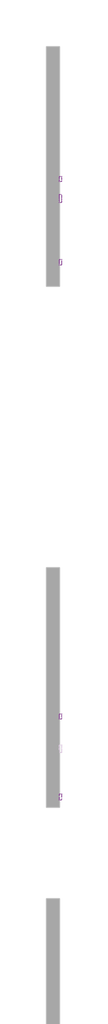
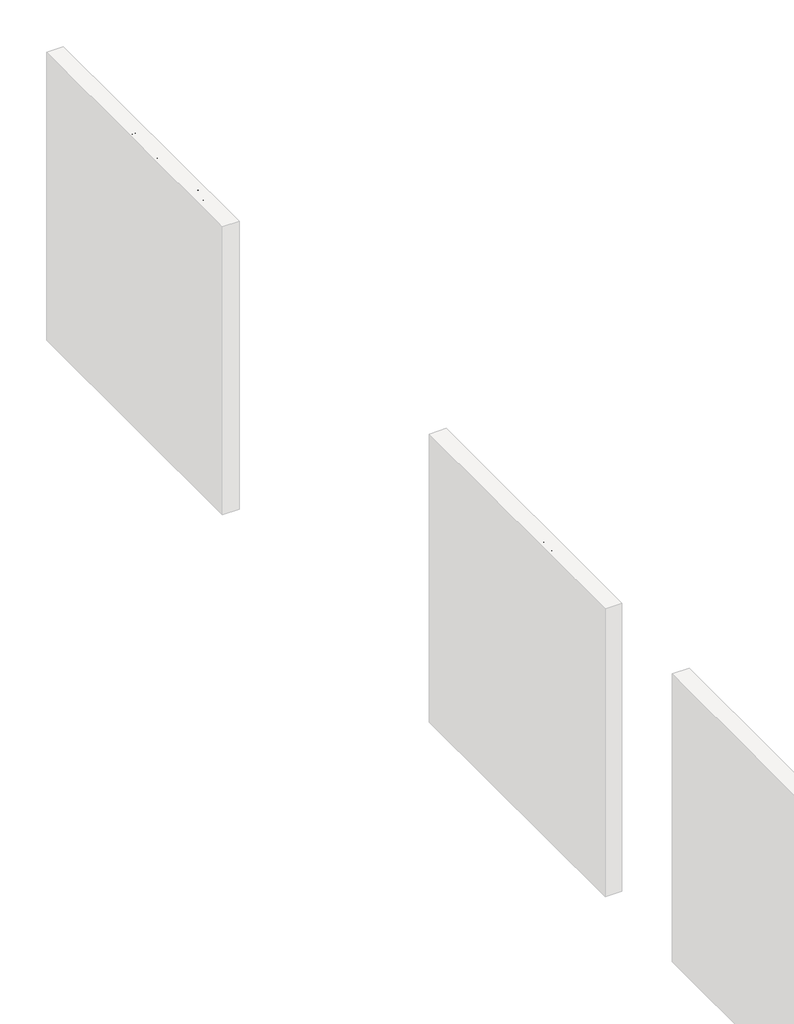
# One storey, part 11 of 17: 5 proxies.
"""IFC4 building model written with IfcOpenShell, lengths in millimetres."""

from ifc_helpers import new_model, si_unit, frame, origin, place, context, project, spatial, polyline, outline, extrude, element, save

model = new_model("IFC4")

# Units and contexts
model_context = context("Model", 3, world=origin())
ifc_project = project(units=[si_unit("LENGTHUNIT", "METRE", prefix="MILLI")], contexts=[model_context])

# Site, building, storey
site = spatial("IfcSite", under=ifc_project)
building = spatial("IfcBuilding", under=site)
storey = spatial("IfcBuildingStorey", under=building, Name="PORTOBELLO - SHOWROOM", Elevation=0.0)

# Proxies
placement = place(None, origin())
element("IfcBuildingElementProxy", 1, Name="10mm Arial", ObjectType="10mm Arial", at=placement, inside=storey, context=model_context, shape_type="SweptSolid", body=[
    extrude(outline(polyline([(5690.0729325, 2518.4745677), (5690.0729325, 2618.9308778), (5728.4062364, 2618.9308778), (5747.1804809, 2615.9755591), (5758.2659917, 2606.8888738), (5762.2759054, 2594.0375295), (5758.9036538, 2582.3020938), (5748.7133225, 2573.4116123), (5761.0864203, 2564.0428841), (5765.4151651, 2548.4201621), (5762.4598464, 2534.9188928), (5755.1389947, 2525.30491), (5744.2128994, 2520.203613), (5728.1119308, 2518.4745677), (5690.0729325, 2518.4745677)]), holes=[polyline([(5702.6299713, 2578.1205018), (5725.5612823, 2578.1205018), (5738.9521869, 2579.1996223), (5747.0088026, 2583.8471982), (5749.7188666, 2592.0264412), (5747.1927436, 2600.217947), (5739.957731, 2605.0617266), (5723.8199742, 2606.373839), (5702.6299713, 2606.373839), (5702.6299713, 2578.1205018)]), polyline([(5702.6299713, 2531.0316064), (5728.3817109, 2531.0316064), (5737.7013881, 2531.5221158), (5745.5863256, 2534.2567053), (5750.8102499, 2539.8362488), (5752.8581263, 2548.2975347), (5750.4546306, 2558.0586703), (5742.6677951, 2563.8834686), (5727.1554376, 2565.563463), (5702.6299713, 2565.563463), (5702.6299713, 2531.0316064)])]), frame((-7622.2794626, 0.0, 0.0), z_axis=(1.0, 0.0, 0.0), x_axis=(0.0, 1.0, 0.0)), (0.0, 0.0, 1.0), 20.0),
    extrude(outline(polyline([(5781.1114636, 2518.4745677), (5781.1114636, 2592.2471704), (5792.0988725, 2592.2471704), (5792.0988725, 2581.3333379), (5799.8979708, 2591.3887791), (5807.74612, 2593.8168003), (5820.3522097, 2589.9417766), (5816.158355, 2578.6845875), (5807.3291871, 2581.2597615), (5800.2290646, 2578.7826894), (5795.704116, 2571.9155588), (5793.6685023, 2557.24933), (5793.6685023, 2518.4745677), (5781.1114636, 2518.4745677)])), frame((-7622.2794626, 0.0, 0.0), z_axis=(1.0, 0.0, 0.0), x_axis=(0.0, 1.0, 0.0)), (0.0, 0.0, 1.0), 20.0),
    extrude(outline(polyline([(5875.2892543, 2527.8923467), (5863.1123603, 2519.3820099), (5849.660142, 2516.9049378), (5839.1663081, 2518.3948599), (5831.4254578, 2522.8646261), (5826.6521889, 2529.6520489), (5825.0610992, 2538.0949407), (5827.4645949, 2548.0277546), (5833.7799025, 2555.2382417), (5842.5722822, 2559.3585201), (5853.4370638, 2561.246981), (5875.2156779, 2565.563463), (5875.2892543, 2568.3593662), (5871.8311636, 2577.6299925), (5857.9497496, 2581.2597615), (5845.245558, 2578.8440031), (5839.1877679, 2570.2723526), (5826.6307291, 2571.8419824), (5832.0631199, 2584.1047156), (5843.0014779, 2591.2906772), (5859.5684304, 2593.8168003), (5874.7864823, 2591.5849828), (5883.3826582, 2585.9809138), (5887.2331564, 2577.4583142), (5887.8462931, 2566.4709053), (5887.8462931, 2550.8481832), (5888.4839552, 2529.0327809), (5890.9855528, 2518.4745677), (5878.428514, 2518.4745677), (5875.2892543, 2527.8923467)]), holes=[polyline([(5875.2892543, 2553.0064243), (5855.0312191, 2549.1559261), (5844.2277512, 2547.1203124), (5839.3349207, 2543.8093744), (5837.618138, 2538.9778575), (5841.3582716, 2532.1843033), (5852.3334178, 2529.4619766), (5865.0376094, 2532.4663462), (5873.2291151, 2539.738147), (5875.2156779, 2549.4502317), (5875.2892543, 2553.0064243)])]), frame((-7622.2794626, 0.0, 0.0), z_axis=(1.0, 0.0, 0.0), x_axis=(0.0, 1.0, 0.0)), (0.0, 0.0, 1.0), 20.0),
    extrude(outline(polyline([(5905.1122214, 2518.4745677), (5905.1122214, 2592.2471704), (5917.6692602, 2592.2471704), (5917.6692602, 2581.9464746), (5927.2709802, 2590.8492188), (5940.379842, 2593.8168003), (5952.237905, 2591.4255673), (5960.3313089, 2585.1470479), (5964.095968, 2575.9132098), (5964.7581555, 2563.773104), (5964.7581555, 2518.4745677), (5952.2011168, 2518.4745677), (5952.2011168, 2562.0808468), (5950.7541143, 2573.1908831), (5945.6405545, 2579.0647323), (5937.0198531, 2581.2597615), (5923.3959566, 2576.3301428), (5919.1009343, 2569.1871007), (5917.6692602, 2557.6172119), (5917.6692602, 2518.4745677), (5905.1122214, 2518.4745677)])), frame((-7622.2794626, 0.0, 0.0), z_axis=(1.0, 0.0, 0.0), x_axis=(0.0, 1.0, 0.0)), (0.0, 0.0, 1.0), 20.0),
    extrude(outline(polyline([(6029.1129792, 2545.158275), (6041.670018, 2543.5886452), (6038.1690077, 2532.420361), (6031.5900513, 2523.9805349), (6022.552417, 2518.6738371), (6011.6753727, 2516.9049378), (5998.3181906, 2519.3728129), (5987.8734076, 2526.776438), (5981.13197, 2538.7908508), (5978.8848242, 2555.0910889), (5982.7230596, 2575.949998), (5994.4217071, 2589.3531654), (6011.5036944, 2593.8168003), (6022.1140243, 2592.2839586), (6030.59677, 2587.6854337), (6036.6821513, 2580.2664801), (6040.1003882, 2570.2723526), (6027.5433494, 2568.7027227), (6021.7185511, 2578.1082391), (6011.6017963, 2581.2597615), (6003.4869326, 2579.7085258), (5997.045932, 2575.0548185), (5992.8428802, 2567.0472538), (5991.4418629, 2555.4344454), (5992.8122234, 2543.6652873), (5996.9233047, 2535.6301314), (6003.2478093, 2531.0040153), (6011.2584397, 2529.4619766), (6023.0919773, 2533.3124748), (6029.1129792, 2545.158275)])), frame((-7622.2794626, 0.0, 0.0), z_axis=(1.0, 0.0, 0.0), x_axis=(0.0, 1.0, 0.0)), (0.0, 0.0, 1.0), 20.0),
    extrude(outline(polyline([(6049.5181672, 2555.360869), (6052.2343626, 2573.1479635), (6060.3829488, 2585.64982), (6070.4506528, 2591.7750552), (6082.5049195, 2593.8168003), (6095.6965547, 2591.3305311), (6106.2333082, 2583.8717237), (6113.1402926, 2572.0289891), (6115.4426208, 2556.3909386), (6111.3713934, 2534.0482388), (6099.5133304, 2521.4053609), (6082.5049195, 2516.9049378), (6069.1538687, 2519.3820099), (6058.629378, 2526.8132262), (6051.7959699, 2538.9042811), (6049.5181672, 2555.360869)]), holes=[polyline([(6062.075206, 2555.3853945), (6063.5283399, 2544.0209065), (6067.8877415, 2535.924437), (6074.4483038, 2531.0775917), (6082.5049195, 2529.4619766), (6090.524747, 2531.0867887), (6097.0730465, 2535.9612252), (6101.4324481, 2544.1649937), (6102.885582, 2555.777802), (6101.4232511, 2566.8111961), (6097.0362583, 2574.7973011), (6090.4787617, 2579.6441464), (6082.5049195, 2581.2597615), (6074.4483038, 2579.6502778), (6067.8877415, 2574.8218266), (6063.5283399, 2566.7437511), (6062.075206, 2555.3853945)])]), frame((-7622.2794626, 0.0, 0.0), z_axis=(1.0, 0.0, 0.0), x_axis=(0.0, 1.0, 0.0)), (0.0, 0.0, 1.0), 20.0),
    extrude(outline(polyline([(6165.6707758, 2553.0064243), (6178.2278146, 2553.0064243), (6182.2745166, 2540.4371228), (6192.1582795, 2532.4908717), (6207.2169158, 2529.4619766), (6220.3380403, 2531.7551077), (6228.811589, 2538.0581525), (6231.5952294, 2546.4826502), (6229.5105647, 2554.3185367), (6220.9757025, 2560.0207077), (6202.6919673, 2564.8154363), (6183.0102806, 2571.0081166), (6172.32944, 2580.3523193), (6168.8100355, 2592.8357816), (6173.1633058, 2607.0482894), (6185.8797601, 2617.0792051), (6204.4945891, 2620.5005077), (6224.3602168, 2616.9197896), (6237.6039686, 2606.3983645), (6242.5826383, 2590.6775406), (6230.0255995, 2590.6775406), (6227.7202057, 2598.1700706), (6222.9132143, 2603.5779359), (6204.9850984, 2607.9434689), (6187.0079316, 2603.6269868), (6181.3670743, 2593.2036636), (6185.3647253, 2584.4971231), (6205.8680152, 2577.4828397), (6228.0880877, 2571.1797948), (6240.2404563, 2561.0017263), (6244.1522682, 2546.8014813), (6239.6518451, 2531.7796332), (6226.7023988, 2520.8167497), (6207.7074252, 2516.9049378), (6185.2788862, 2521.123318), (6171.0909039, 2533.8275096), (6165.6707758, 2553.0064243)])), frame((-7622.2794626, 0.0, 0.0), z_axis=(1.0, 0.0, 0.0), x_axis=(0.0, 1.0, 0.0)), (0.0, 0.0, 1.0), 20.0),
    extrude(outline(polyline([(6308.5070918, 2518.4745677), (6308.5070918, 2531.1542338), (6298.6723798, 2520.4672618), (6285.8455609, 2516.9049378), (6274.0365489, 2519.4065354), (6265.8940941, 2525.6850548), (6262.1539605, 2534.9311556), (6261.4181965, 2546.6052776), (6261.4181965, 2592.2471704), (6273.9752352, 2592.2471704), (6273.9752352, 2552.515915), (6274.7355247, 2539.7136215), (6279.7019316, 2532.1965661), (6289.058397, 2529.4619766), (6299.5430339, 2532.2578797), (6306.4714781, 2539.873037), (6308.5070918, 2553.8648156), (6308.5070918, 2592.2471704), (6321.0641306, 2592.2471704), (6321.0641306, 2518.4745677), (6308.5070918, 2518.4745677)])), frame((-7622.2794626, 0.0, 0.0), z_axis=(1.0, 0.0, 0.0), x_axis=(0.0, 1.0, 0.0)), (0.0, 0.0, 1.0), 20.0),
    extrude(outline(polyline([(6338.3300589, 2490.2212304), (6338.3300589, 2592.2471704), (6350.8870977, 2592.2471704), (6350.8870977, 2579.9353863), (6359.5691128, 2590.3464468), (6371.2922857, 2593.8168003), (6387.2093133, 2588.9607579), (6397.6081111, 2575.2755477), (6401.1152528, 2555.9249548), (6397.1543899, 2535.5810804), (6385.6519462, 2521.724192), (6369.7717068, 2516.9049378), (6358.8456115, 2520.1300366), (6350.8870977, 2528.2847542), (6350.8870977, 2490.2212304), (6338.3300589, 2490.2212304)]), holes=[polyline([(6350.8870977, 2554.7722579), (6352.2451954, 2543.5150688), (6356.3194885, 2535.6423941), (6362.3312934, 2531.007081), (6369.5019266, 2529.4619766), (6376.7890558, 2531.0622633), (6382.9541449, 2535.8631233), (6387.1571967, 2544.0239722), (6388.558214, 2555.7042256), (6387.1909192, 2566.900101), (6383.089035, 2574.8831403), (6377.0864271, 2579.6656062), (6370.0169614, 2581.2597615), (6362.9199046, 2579.5644386), (6356.6873705, 2574.4784701), (6352.3371659, 2566.1612713), (6350.8870977, 2554.7722579)])]), frame((-7622.2794626, 0.0, 0.0), z_axis=(1.0, 0.0, 0.0), x_axis=(0.0, 1.0, 0.0)), (0.0, 0.0, 1.0), 20.0),
    extrude(outline(polyline([(6415.2419214, 2518.4745677), (6415.2419214, 2592.2471704), (6426.2293303, 2592.2471704), (6426.2293303, 2581.3333379), (6434.0284286, 2591.3887791), (6441.8765778, 2593.8168003), (6454.4826675, 2589.9417766), (6450.2888128, 2578.6845875), (6441.4596449, 2581.2597615), (6434.3595224, 2578.7826894), (6429.8345739, 2571.9155588), (6427.7989601, 2557.24933), (6427.7989601, 2518.4745677), (6415.2419214, 2518.4745677)])), frame((-7622.2794626, 0.0, 0.0), z_axis=(1.0, 0.0, 0.0), x_axis=(0.0, 1.0, 0.0)), (0.0, 0.0, 1.0), 20.0),
    extrude(outline(polyline([(6513.9814489, 2540.4493855), (6526.293233, 2538.8797557), (6521.8571893, 2529.602998), (6514.7785265, 2522.6684224), (6505.2166603, 2518.345809), (6493.3310062, 2516.9049378), (6478.5973323, 2519.391207), (6467.2604355, 2526.8500144), (6460.0315543, 2538.7969822), (6457.6219272, 2554.7477324), (6460.0560798, 2571.2349771), (6467.3585374, 2583.5651553), (6478.54215, 2591.253889), (6492.6197677, 2593.8168003), (6506.2589927, 2591.2600204), (6517.1574968, 2583.5896808), (6524.3036045, 2571.2840281), (6526.6856404, 2554.8213088), (6526.612064, 2551.4367944), (6470.178966, 2551.4367944), (6472.3525354, 2542.0374095), (6477.4017158, 2535.1273593), (6484.688845, 2530.8783223), (6493.5762609, 2529.4619766), (6505.888045, 2532.0862015), (6513.9814489, 2540.4493855)]), holes=[polyline([(6470.178966, 2563.9938332), (6514.1286017, 2563.9938332), (6509.1008811, 2575.3736496), (6501.7800294, 2579.7882335), (6492.5707168, 2581.2597615), (6477.1074102, 2576.5631347), (6472.2421708, 2571.0724959), (6470.178966, 2563.9938332)])]), frame((-7622.2794626, 0.0, 0.0), z_axis=(1.0, 0.0, 0.0), x_axis=(0.0, 1.0, 0.0)), (0.0, 0.0, 1.0), 20.0),
    extrude(outline(polyline([(6539.2426792, 2518.4745677), (6539.2426792, 2592.2471704), (6551.799718, 2592.2471704), (6551.799718, 2580.1070646), (6560.4326821, 2590.0521412), (6572.7199408, 2593.8168003), (6585.301505, 2589.9785648), (6592.2176865, 2579.2241478), (6602.0156103, 2590.1686372), (6614.3887081, 2593.8168003), (6623.827947, 2592.299287), (6630.8085078, 2587.7467474), (6635.1219242, 2580.0365539), (6636.5597297, 2569.0460793), (6636.5597297, 2518.4745677), (6624.0026909, 2518.4745677), (6624.0026909, 2563.6504767), (6622.8377313, 2574.1351135), (6618.619351, 2579.2977242), (6611.4456521, 2581.2597615), (6599.0970798, 2576.2320409), (6595.4090628, 2569.6898728), (6594.1797238, 2560.1188095), (6594.1797238, 2518.4745677), (6581.6226851, 2518.4745677), (6581.6226851, 2565.0484283), (6578.7164173, 2577.2130596), (6569.1882736, 2581.2597615), (6559.8931219, 2578.5619602), (6553.7127044, 2570.66476), (6551.799718, 2555.6797001), (6551.799718, 2518.4745677), (6539.2426792, 2518.4745677)])), frame((-7622.2794626, 0.0, 0.0), z_axis=(1.0, 0.0, 0.0), x_axis=(0.0, 1.0, 0.0)), (0.0, 0.0, 1.0), 20.0),
    extrude(outline(polyline([(6707.04592, 2540.4493855), (6719.3577041, 2538.8797557), (6714.9216603, 2529.602998), (6707.8429976, 2522.6684224), (6698.2811314, 2518.345809), (6686.3954773, 2516.9049378), (6671.6618034, 2519.391207), (6660.3249066, 2526.8500144), (6653.0960254, 2538.7969822), (6650.6863983, 2554.7477324), (6653.1205508, 2571.2349771), (6660.4230084, 2583.5651553), (6671.6066211, 2591.253889), (6685.6842388, 2593.8168003), (6699.3234637, 2591.2600204), (6710.2219678, 2583.5896808), (6717.3680756, 2571.2840281), (6719.7501115, 2554.8213088), (6719.6765351, 2551.4367944), (6663.2434371, 2551.4367944), (6665.4170065, 2542.0374095), (6670.4661869, 2535.1273593), (6677.7533161, 2530.8783223), (6686.640732, 2529.4619766), (6698.9525161, 2532.0862015), (6707.04592, 2540.4493855)]), holes=[polyline([(6663.2434371, 2563.9938332), (6707.1930727, 2563.9938332), (6702.1653521, 2575.3736496), (6694.8445004, 2579.7882335), (6685.6351878, 2581.2597615), (6670.1718813, 2576.5631347), (6665.3066419, 2571.0724959), (6663.2434371, 2563.9938332)])]), frame((-7622.2794626, 0.0, 0.0), z_axis=(1.0, 0.0, 0.0), x_axis=(0.0, 1.0, 0.0)), (0.0, 0.0, 1.0), 20.0),
])
element("IfcBuildingElementProxy", 2, Name="10mm Arial", ObjectType="10mm Arial", at=placement, inside=storey, context=model_context, shape_type="SweptSolid", body=[
    extrude(outline(polyline([(5732.4529383, 2393.4745677), (5719.8958996, 2393.4745677), (5719.8958996, 2471.7598562), (5708.0010484, 2463.2863076), (5694.781822, 2456.9464746), (5694.781822, 2468.8168003), (5713.1881845, 2480.5644987), (5724.3595344, 2493.9308778), (5732.4529383, 2493.9308778), (5732.4529383, 2393.4745677)])), frame((-7622.2794626, 0.0, 0.0), z_axis=(1.0, 0.0, 0.0), x_axis=(0.0, 1.0, 0.0)), (0.0, 0.0, 1.0), 20.0),
    extrude(outline(polyline([(5762.2759054, 2442.8933823), (5765.9669881, 2471.7966444), (5776.9298715, 2488.4616988), (5795.2381322, 2493.9308778), (5809.904361, 2490.6935163), (5820.0333786, 2481.3615763), (5825.9194906, 2466.4991437), (5828.2003589, 2442.8933823), (5824.5460645, 2414.1127476), (5813.6199692, 2397.410905), (5805.3886096, 2393.2814296), (5795.2381322, 2391.9049378), (5782.1905841, 2394.2961708), (5772.2822957, 2401.4698697), (5764.777503, 2418.4598865), (5762.2759054, 2442.8933823)]), holes=[polyline([(5774.8329442, 2442.9179078), (5776.3044722, 2423.1657104), (5780.7190561, 2411.7337774), (5787.2918811, 2406.2799268), (5795.2381322, 2404.4619766), (5803.1843833, 2406.2860581), (5809.7572082, 2411.7583028), (5814.1717922, 2423.1963672), (5815.6433202, 2442.9179078), (5814.2208431, 2462.2255812), (5809.953412, 2473.746419), (5803.3928497, 2479.466984), (5795.0909794, 2481.373839), (5787.2305674, 2479.6938446), (5780.9152598, 2474.6538613), (5776.3535231, 2462.4156536), (5774.8329442, 2442.9179078)])]), frame((-7622.2794626, 0.0, 0.0), z_axis=(1.0, 0.0, 0.0), x_axis=(0.0, 1.0, 0.0)), (0.0, 0.0, 1.0), 20.0),
    extrude(outline(polyline([(5834.4788783, 2393.4745677), (5861.3097385, 2430.5815982), (5836.0485082, 2467.2471704), (5851.1071445, 2467.2471704), (5863.2963013, 2449.5643092), (5869.0107349, 2441.2501761), (5873.9648791, 2448.0682557), (5887.8462931, 2467.2471704), (5902.9539804, 2467.2471704), (5876.4174258, 2430.5570728), (5901.9729617, 2393.4745677), (5886.8897999, 2393.4745677), (5871.487807, 2415.792742), (5868.6919039, 2419.8884949), (5849.5865656, 2393.4745677), (5834.4788783, 2393.4745677)])), frame((-7622.2794626, 0.0, 0.0), z_axis=(1.0, 0.0, 0.0), x_axis=(0.0, 1.0, 0.0)), (0.0, 0.0, 1.0), 20.0),
    extrude(outline(polyline([(5974.1759346, 2406.0316064), (5974.1759346, 2393.4745677), (5908.2514811, 2393.4745677), (5909.6003817, 2402.1320573), (5917.2400645, 2415.4616482), (5932.9731512, 2430.0175125), (5954.6414007, 2450.9377353), (5960.049266, 2465.1625058), (5954.9357063, 2476.6772122), (5941.5815899, 2481.373839), (5927.6633877, 2476.7875768), (5922.3781497, 2464.1079107), (5909.8211109, 2465.6775406), (5912.8653344, 2477.8237778), (5919.4473565, 2486.6958652), (5929.2238205, 2492.1221247), (5941.85137, 2493.9308778), (5954.57089, 2491.9197896), (5964.3289599, 2485.8865249), (5970.5369686, 2476.873416), (5972.6063048, 2465.9227952), (5970.3744873, 2454.0156813), (5962.9555338, 2441.7038972), (5944.9661042, 2424.4992826), (5930.5206045, 2412.4204904), (5924.8552218, 2406.0316064), (5974.1759346, 2406.0316064)])), frame((-7622.2794626, 0.0, 0.0), z_axis=(1.0, 0.0, 0.0), x_axis=(0.0, 1.0, 0.0)), (0.0, 0.0, 1.0), 20.0),
    extrude(outline(polyline([(5986.7329734, 2442.8933823), (5990.4240561, 2471.7966444), (6001.3869395, 2488.4616988), (6019.6952002, 2493.9308778), (6034.361429, 2490.6935163), (6044.4904466, 2481.3615763), (6050.3765586, 2466.4991437), (6052.6574269, 2442.8933823), (6049.0031324, 2414.1127476), (6038.0770372, 2397.410905), (6029.8456775, 2393.2814296), (6019.6952002, 2391.9049378), (6006.6476521, 2394.2961708), (5996.7393637, 2401.4698697), (5989.234571, 2418.4598865), (5986.7329734, 2442.8933823)]), holes=[polyline([(5999.2900122, 2442.9179078), (6000.7615401, 2423.1657104), (6005.1761241, 2411.7337774), (6011.7489491, 2406.2799268), (6019.6952002, 2404.4619766), (6027.6414513, 2406.2860581), (6034.2142762, 2411.7583028), (6038.6288602, 2423.1963672), (6040.1003882, 2442.9179078), (6038.6779111, 2462.2255812), (6034.41048, 2473.746419), (6027.8499177, 2479.466984), (6019.5480474, 2481.373839), (6011.6876354, 2479.6938446), (6005.3723278, 2474.6538613), (6000.8105911, 2462.4156536), (5999.2900122, 2442.9179078)])]), frame((-7622.2794626, 0.0, 0.0), z_axis=(1.0, 0.0, 0.0), x_axis=(0.0, 1.0, 0.0)), (0.0, 0.0, 1.0), 20.0),
])
element("IfcBuildingElementProxy", 3, Name="10mm Arial", ObjectType="10mm Arial", at=placement, inside=storey, context=model_context, shape_type="SweptSolid", body=[
    extrude(outline(polyline([(-148.8255811, 2393.4745677), (-148.8255811, 2417.0190154), (-194.3448466, 2417.0190154), (-194.3448466, 2429.5760541), (-145.6863214, 2492.361248), (-136.2685423, 2492.361248), (-136.2685423, 2429.5760541), (-123.7115035, 2429.5760541), (-123.7115035, 2417.0190154), (-136.2685423, 2417.0190154), (-136.2685423, 2393.4745677), (-148.8255811, 2393.4745677)]), holes=[polyline([(-148.8255811, 2429.5760541), (-148.8255811, 2468.3753419), (-178.8938028, 2429.5760541), (-148.8255811, 2429.5760541)])]), frame((-7622.2794626, 0.0, 0.0), z_axis=(1.0, 0.0, 0.0), x_axis=(0.0, 1.0, 0.0)), (0.0, 0.0, 1.0), 20.0),
    extrude(outline(polyline([(-112.7240946, 2420.158275), (-100.1670558, 2421.7279049), (-93.8394855, 2408.7907214), (-80.718361, 2404.4619766), (-71.7175149, 2405.9672271), (-64.9730116, 2410.4829786), (-60.7607628, 2417.4880649), (-59.3566798, 2426.4613199), (-64.6173924, 2441.3728034), (-71.2239399, 2445.4746877), (-80.5221573, 2446.8419824), (-91.5463544, 2444.6592159), (-98.597426, 2438.9938332), (-111.1544648, 2440.563463), (-100.1670558, 2492.361248), (-51.5085306, 2492.361248), (-51.5085306, 2479.8042092), (-90.0135128, 2479.8042092), (-95.4091154, 2452.1394832), (-86.438926, 2457.5841367), (-77.0395411, 2459.3990212), (-65.3041054, 2457.1488097), (-55.5552325, 2450.3981751), (-48.9885389, 2440.1097419), (-46.7996411, 2427.2461348), (-48.7678097, 2414.6890961), (-54.6723158, 2403.9469418), (-65.9785557, 2394.9154388), (-80.7674119, 2391.9049378), (-93.1006558, 2393.839384), (-102.9261708, 2399.6427224), (-109.661477, 2408.6405029), (-112.7240946, 2420.158275)])), frame((-7622.2794626, 0.0, 0.0), z_axis=(1.0, 0.0, 0.0), x_axis=(0.0, 1.0, 0.0)), (0.0, 0.0, 1.0), 20.0),
    extrude(outline(polyline([(-40.5211217, 2393.4745677), (-13.6902615, 2430.5815982), (-38.9514918, 2467.2471704), (-23.8928555, 2467.2471704), (-11.7036987, 2449.5643092), (-5.9892651, 2441.2501761), (-1.0351209, 2448.0682557), (12.8462931, 2467.2471704), (27.9539804, 2467.2471704), (1.4174258, 2430.5570728), (26.9729617, 2393.4745677), (11.8897999, 2393.4745677), (-3.512193, 2415.792742), (-6.3080961, 2419.8884949), (-25.4134344, 2393.4745677), (-40.5211217, 2393.4745677)])), frame((-7622.2794626, 0.0, 0.0), z_axis=(1.0, 0.0, 0.0), x_axis=(0.0, 1.0, 0.0)), (0.0, 0.0, 1.0), 20.0),
    extrude(outline(polyline([(81.9100063, 2393.4745677), (69.3529675, 2393.4745677), (69.3529675, 2471.7598562), (57.4581164, 2463.2863076), (44.23889, 2456.9464746), (44.23889, 2468.8168003), (62.6452525, 2480.5644987), (73.8166024, 2493.9308778), (81.9100063, 2493.9308778), (81.9100063, 2393.4745677)])), frame((-7622.2794626, 0.0, 0.0), z_axis=(1.0, 0.0, 0.0), x_axis=(0.0, 1.0, 0.0)), (0.0, 0.0, 1.0), 20.0),
    extrude(outline(polyline([(176.0877971, 2406.0316064), (176.0877971, 2393.4745677), (110.1633435, 2393.4745677), (111.5122442, 2402.1320573), (119.151927, 2415.4616482), (134.8850136, 2430.0175125), (156.5532631, 2450.9377353), (161.9611285, 2465.1625058), (156.8475687, 2476.6772122), (143.4934523, 2481.373839), (129.5752502, 2476.7875768), (124.2900122, 2464.1079107), (111.7329734, 2465.6775406), (114.7771969, 2477.8237778), (121.3592189, 2486.6958652), (131.135683, 2492.1221247), (143.7632324, 2493.9308778), (156.4827524, 2491.9197896), (166.2408223, 2485.8865249), (172.448831, 2476.873416), (174.5181672, 2465.9227952), (172.2863498, 2454.0156813), (164.8673962, 2441.7038972), (146.8779667, 2424.4992826), (132.432467, 2412.4204904), (126.7670843, 2406.0316064), (176.0877971, 2406.0316064)])), frame((-7622.2794626, 0.0, 0.0), z_axis=(1.0, 0.0, 0.0), x_axis=(0.0, 1.0, 0.0)), (0.0, 0.0, 1.0), 20.0),
    extrude(outline(polyline([(188.6448359, 2442.8933823), (192.3359185, 2471.7966444), (203.298802, 2488.4616988), (221.6070626, 2493.9308778), (236.2732915, 2490.6935163), (246.4023091, 2481.3615763), (252.288421, 2466.4991437), (254.5692894, 2442.8933823), (250.9149949, 2414.1127476), (239.9888996, 2397.410905), (231.75754, 2393.2814296), (221.6070626, 2391.9049378), (208.5595145, 2394.2961708), (198.6512261, 2401.4698697), (191.1464334, 2418.4598865), (188.6448359, 2442.8933823)]), holes=[polyline([(201.2018746, 2442.9179078), (202.6734026, 2423.1657104), (207.0879865, 2411.7337774), (213.6608115, 2406.2799268), (221.6070626, 2404.4619766), (229.5533137, 2406.2860581), (236.1261387, 2411.7583028), (240.5407226, 2423.1963672), (242.0122506, 2442.9179078), (240.5897736, 2462.2255812), (236.3223424, 2473.746419), (229.7617802, 2479.466984), (221.4599098, 2481.373839), (213.5994979, 2479.6938446), (207.2841903, 2474.6538613), (202.7224535, 2462.4156536), (201.2018746, 2442.9179078)])]), frame((-7622.2794626, 0.0, 0.0), z_axis=(1.0, 0.0, 0.0), x_axis=(0.0, 1.0, 0.0)), (0.0, 0.0, 1.0), 20.0),
])
element("IfcBuildingElementProxy", 4, Name="10mm Arial Narrow", ObjectType="10mm Arial Narrow", at=placement, inside=storey, context=model_context, shape_type="SweptSolid", body=[
    extrude(outline(polyline([(6777.2528462, 2518.4745677), (6777.2528462, 2619.1931714), (6808.5497308, 2619.1931714), (6824.8454323, 2617.3148507), (6836.3184185, 2607.8344075), (6840.6080969, 2590.8152987), (6838.8217885, 2578.7394731), (6833.4628633, 2569.1130794), (6823.7190745, 2562.811821), (6808.7781752, 2560.7114015), (6786.9998078, 2560.7114015), (6786.9998078, 2518.4745677), (6777.2528462, 2518.4745677)]), holes=[polyline([(6786.9998078, 2572.0828568), (6809.9711627, 2572.0828568), (6825.8353581, 2576.613671), (6830.8611352, 2590.2822617), (6828.3863208, 2600.4480381), (6822.4086919, 2606.247988), (6809.7427183, 2607.8217162), (6786.9998078, 2607.8217162), (6786.9998078, 2572.0828568)])]), frame((-7622.2794626, 0.0, 0.0), z_axis=(1.0, 0.0, 0.0), x_axis=(0.0, 1.0, 0.0)), (0.0, 0.0, 1.0), 20.0),
    extrude(outline(polyline([(6848.7305649, 2555.0256739), (6850.6850338, 2571.6164494), (6856.5484404, 2583.5685342), (6865.4070071, 2590.7930888), (6876.3469563, 2593.2012737), (6887.1599919, 2590.7930888), (6896.0439413, 2583.5685342), (6901.9834961, 2571.8068198), (6903.9633476, 2555.7871552), (6902.0183973, 2538.6252687), (6896.1835462, 2526.4828135), (6887.334498, 2519.2582589), (6876.3469563, 2516.8500741), (6865.4863281, 2519.2646046), (6856.6118972, 2526.5081962), (6850.700898, 2538.4666267), (6848.7305649, 2555.0256739)]), holes=[polyline([(6858.4775266, 2555.0510566), (6859.7815635, 2542.4993052), (6863.693674, 2533.6280471), (6869.5348708, 2528.3547886), (6876.6261661, 2526.5970357), (6883.3462393, 2528.3706528), (6889.0383126, 2533.6915039), (6892.9218676, 2542.5786262), (6894.216386, 2555.0510566), (6892.9123491, 2567.5647339), (6889.0002385, 2576.4233006), (6883.1590418, 2581.6965592), (6876.0677465, 2583.454312), (6869.3000807, 2581.6870407), (6863.6175259, 2576.3852265), (6859.7625264, 2567.5171413), (6858.4775266, 2555.0510566)])]), frame((-7622.2794626, 0.0, 0.0), z_axis=(1.0, 0.0, 0.0), x_axis=(0.0, 1.0, 0.0)), (0.0, 0.0, 1.0), 20.0),
    extrude(outline(polyline([(6975.4410664, 2526.5970357), (6977.06556, 2516.8500741), (6969.7045734, 2516.8500741), (6961.4298091, 2518.9695306), (6957.1147479, 2524.7694804), (6955.9471431, 2539.4153056), (6955.9471431, 2581.8298184), (6947.8246751, 2581.8298184), (6947.8246751, 2585.0788056), (6946.2001815, 2580.2053248), (6938.6361331, 2581.8298184), (6932.5569734, 2579.5073002), (6928.6861098, 2573.0220171), (6926.7062582, 2557.6147106), (6926.7062582, 2518.4745677), (6916.9592965, 2518.4745677), (6916.9592965, 2591.5767801), (6926.7062582, 2591.5767801), (6926.7062582, 2581.8805838), (6932.9504055, 2590.967595), (6939.3468491, 2593.2012737), (6947.8246751, 2591.5767801), (6955.9471431, 2591.5767801), (6955.9471431, 2607.8217162), (6965.6941048, 2615.9441842), (6965.6941048, 2591.5767801), (6975.4410664, 2591.5767801), (6975.4410664, 2581.8298184), (6965.6941048, 2581.8298184), (6965.6941048, 2537.1816269), (6966.557117, 2529.1860724), (6971.1767707, 2526.5970357), (6975.4410664, 2526.5970357)])), frame((-7622.2794626, 0.0, 0.0), z_axis=(1.0, 0.0, 0.0), x_axis=(0.0, 1.0, 0.0)), (0.0, 0.0, 1.0), 20.0),
    extrude(outline(polyline([(6981.9390409, 2555.0256739), (6983.8935097, 2571.6164494), (6989.7569164, 2583.5685342), (6998.6154831, 2590.7930888), (7009.5554322, 2593.2012737), (7020.3684678, 2590.7930888), (7029.2524172, 2583.5685342), (7035.191972, 2571.8068198), (7037.1718236, 2555.7871552), (7035.2268732, 2538.6252687), (7029.3920222, 2526.4828135), (7020.542974, 2519.2582589), (7009.5554322, 2516.8500741), (6998.6948041, 2519.2646046), (6989.8203731, 2526.5081962), (6983.9093739, 2538.4666267), (6981.9390409, 2555.0256739)]), holes=[polyline([(6991.6860025, 2555.0510566), (6992.9900394, 2542.4993052), (6996.90215, 2533.6280471), (7002.7433467, 2528.3547886), (7009.8346421, 2526.5970357), (7016.5547152, 2528.3706528), (7022.2467885, 2533.6915039), (7026.1303436, 2542.5786262), (7027.4248619, 2555.0510566), (7026.1208251, 2567.5647339), (7022.2087145, 2576.4233006), (7016.3675177, 2581.6965592), (7009.2762224, 2583.454312), (7002.5085566, 2581.6870407), (6996.8260018, 2576.3852265), (6992.9710024, 2567.5171413), (6991.6860025, 2555.0510566)])]), frame((-7622.2794626, 0.0, 0.0), z_axis=(1.0, 0.0, 0.0), x_axis=(0.0, 1.0, 0.0)), (0.0, 0.0, 1.0), 20.0),
    extrude(outline(polyline([(7059.9147341, 2518.4745677), (7050.1677724, 2518.4745677), (7050.1677724, 2619.1931714), (7059.9147341, 2619.1931714), (7059.9147341, 2583.7842873), (7067.3137948, 2590.8660641), (7076.5150282, 2593.2012737), (7089.3967548, 2589.0004347), (7098.6741363, 2576.2710043), (7102.1515679, 2555.5840935), (7100.2193089, 2539.1297501), (7094.4225319, 2526.927011), (7086.0494096, 2519.3693083), (7076.3881146, 2516.8500741), (7067.0472764, 2519.4644935), (7059.9147341, 2527.2316035), (7059.9147341, 2518.4745677)]), holes=[polyline([(7059.9147341, 2555.5840935), (7061.9961165, 2538.3365403), (7067.8849059, 2529.6048872), (7076.3373492, 2526.5970357), (7082.2800768, 2528.3865169), (7087.5184341, 2533.7549607), (7092.4046063, 2555.1779701), (7087.6961131, 2576.613671), (7082.4514101, 2581.7441518), (7076.1342875, 2583.454312), (7070.1566587, 2581.6648308), (7064.8643631, 2576.2963871), (7059.9147341, 2555.5840935)])]), frame((-7622.2794626, 0.0, 0.0), z_axis=(1.0, 0.0, 0.0), x_axis=(0.0, 1.0, 0.0)), (0.0, 0.0, 1.0), 20.0),
    extrude(outline(polyline([(7154.1353634, 2541.2174782), (7163.8823251, 2539.5929846), (7160.1827947, 2529.706418), (7154.3638078, 2522.5865671), (7146.6601545, 2518.2841973), (7137.3066249, 2516.8500741), (7125.7130709, 2519.2646046), (7116.5689487, 2526.5081962), (7110.629394, 2538.3143304), (7108.6495424, 2554.4164888), (7110.6389125, 2571.0834124), (7116.6070228, 2583.2639417), (7125.6210586, 2590.7169407), (7136.7482053, 2593.2012737), (7147.4311544, 2590.8026073), (7156.1786718, 2583.6066083), (7162.0135229, 2571.8671037), (7163.9584732, 2555.8379207), (7163.8823251, 2552.5889335), (7118.396504, 2552.5889335), (7124.3995156, 2533.1457756), (7130.3295518, 2528.2342207), (7137.4335385, 2526.5970357), (7147.6120063, 2530.2521463), (7154.1353634, 2541.2174782)]), holes=[polyline([(7119.0564546, 2562.3358951), (7154.1353634, 2562.3358951), (7149.8710677, 2576.6009796), (7144.0457351, 2581.7409789), (7136.8243534, 2583.454312), (7124.6152686, 2577.7432017), (7119.0564546, 2562.3358951)])]), frame((-7622.2794626, 0.0, 0.0), z_axis=(1.0, 0.0, 0.0), x_axis=(0.0, 1.0, 0.0)), (0.0, 0.0, 1.0), 20.0),
    extrude(outline(polyline([(-7602.2794626, 7186.6252356), (-7602.2794626, 7176.8782739), (-7622.2794626, 7176.8782739), (-7622.2794626, 7186.6252356), (-7602.2794626, 7186.6252356)])), frame((0.0, 0.0, 2518.4745677), z_axis=(0.0, 0.0, 1.0), x_axis=(1.0, 0.0, 0.0)), (0.0, 0.0, 1.0), 100.7186038),
    extrude(outline(polyline([(-7602.2794626, 7212.6171333), (-7602.2794626, 7202.8701717), (-7622.2794626, 7202.8701717), (-7622.2794626, 7212.6171333), (-7602.2794626, 7212.6171333)])), frame((0.0, 0.0, 2518.4745677), z_axis=(0.0, 0.0, 1.0), x_axis=(1.0, 0.0, 0.0)), (0.0, 0.0, 1.0), 100.7186038),
    extrude(outline(polyline([(7223.9885886, 2555.0256739), (7225.9430575, 2571.6164494), (7231.8064641, 2583.5685342), (7240.6650308, 2590.7930888), (7251.60498, 2593.2012737), (7262.4180155, 2590.7930888), (7271.301965, 2583.5685342), (7277.2415197, 2571.8068198), (7279.2213713, 2555.7871552), (7277.276421, 2538.6252687), (7271.4415699, 2526.4828135), (7262.5925217, 2519.2582589), (7251.60498, 2516.8500741), (7240.7443518, 2519.2646046), (7231.8699209, 2526.5081962), (7225.9589217, 2538.4666267), (7223.9885886, 2555.0256739)]), holes=[polyline([(7233.7355503, 2555.0510566), (7235.0395871, 2542.4993052), (7238.9516977, 2533.6280471), (7244.7928944, 2528.3547886), (7251.8841898, 2526.5970357), (7258.604263, 2528.3706528), (7264.2963363, 2533.6915039), (7268.1798913, 2542.5786262), (7269.4744097, 2555.0510566), (7268.1703728, 2567.5647339), (7264.2582622, 2576.4233006), (7258.4170655, 2581.6965592), (7251.3257701, 2583.454312), (7244.5581044, 2581.6870407), (7238.8755496, 2576.3852265), (7235.0205501, 2567.5171413), (7233.7355503, 2555.0510566)])]), frame((-7622.2794626, 0.0, 0.0), z_axis=(1.0, 0.0, 0.0), x_axis=(0.0, 1.0, 0.0)), (0.0, 0.0, 1.0), 20.0),
])
element("IfcBuildingElementProxy", 5, Name="10mm Arial Narrow", ObjectType="10mm Arial Narrow", at=placement, inside=storey, context=model_context, shape_type="SweptSolid", body=[
    extrude(outline(polyline([(716.9785273, 2518.4745677), (716.9785273, 2615.7916181), (747.2184273, 2615.7916181), (762.9637767, 2613.9767336), (774.0492875, 2604.8164719), (778.1940913, 2588.3721467), (776.4681116, 2576.7041561), (771.2901726, 2567.402873), (761.8754592, 2561.314426), (747.4391565, 2559.2849437), (726.3963064, 2559.2849437), (726.3963064, 2518.4745677), (716.9785273, 2518.4745677)]), holes=[polyline([(726.3963064, 2570.2723526), (748.5918535, 2570.2723526), (763.9202699, 2574.6501483), (768.7763123, 2587.857112), (766.3850793, 2597.6795612), (760.609332, 2603.2836303), (748.3711243, 2604.8042092), (726.3963064, 2604.8042092), (726.3963064, 2570.2723526)])]), frame((-7622.2794626, 0.0, 0.0), z_axis=(1.0, 0.0, 0.0), x_axis=(0.0, 1.0, 0.0)), (0.0, 0.0, 1.0), 20.0),
    extrude(outline(polyline([(786.0422406, 2553.7912392), (787.9307015, 2569.8216971), (793.5960842, 2581.3701261), (802.155472, 2588.350687), (812.7259479, 2590.6775406), (823.1737966, 2588.350687), (831.7577098, 2581.3701261), (837.496669, 2570.0056381), (839.4096553, 2554.5270032), (837.5303915, 2537.9447223), (831.8925999, 2526.2123523), (823.3424092, 2519.2317914), (812.7259479, 2516.9049378), (802.232114, 2519.2379228), (793.6573979, 2526.2368778), (787.9460299, 2537.7914381), (786.0422406, 2553.7912392)]), holes=[polyline([(795.4600196, 2553.8157647), (796.7200155, 2541.6879216), (800.500003, 2533.1162711), (806.1439259, 2528.0211054), (812.9957281, 2526.3227169), (819.4888453, 2528.0364339), (824.9886811, 2533.1775847), (828.7410775, 2541.7645636), (829.9918763, 2553.8157647), (828.7318804, 2565.9068196), (824.9518929, 2574.4662073), (819.30797, 2579.561373), (812.4561678, 2581.2597615), (805.9170654, 2579.5521759), (800.4264266, 2574.4294191), (796.7016214, 2565.8608343), (795.4600196, 2553.8157647)])]), frame((-7622.2794626, 0.0, 0.0), z_axis=(1.0, 0.0, 0.0), x_axis=(0.0, 1.0, 0.0)), (0.0, 0.0, 1.0), 20.0),
    extrude(outline(polyline([(908.4733686, 2526.3227169), (910.0429984, 2516.9049378), (902.9306132, 2516.9049378), (894.9353111, 2518.9528143), (890.7659819, 2524.5568833), (889.6378104, 2538.7080774), (889.6378104, 2579.6901317), (881.7896612, 2579.6901317), (881.7896612, 2582.8293914), (880.2200313, 2578.1205018), (872.9114424, 2579.6901317), (867.0375932, 2577.4460515), (863.2974596, 2571.1797948), (861.3844732, 2556.2928368), (861.3844732, 2518.4745677), (851.9666941, 2518.4745677), (851.9666941, 2589.1079107), (861.3844732, 2589.1079107), (861.3844732, 2579.7391826), (867.4177379, 2588.5192995), (873.5981554, 2590.6775406), (881.7896612, 2589.1079107), (889.6378104, 2589.1079107), (889.6378104, 2604.8042092), (899.0555895, 2612.6523584), (899.0555895, 2589.1079107), (908.4733686, 2589.1079107), (908.4733686, 2579.6901317), (899.0555895, 2579.6901317), (899.0555895, 2536.5498364), (899.8894553, 2528.8243145), (904.3530902, 2526.3227169), (908.4733686, 2526.3227169)])), frame((-7622.2794626, 0.0, 0.0), z_axis=(1.0, 0.0, 0.0), x_axis=(0.0, 1.0, 0.0)), (0.0, 0.0, 1.0), 20.0),
    extrude(outline(polyline([(914.7518879, 2553.7912392), (916.6403489, 2569.8216971), (922.3057316, 2581.3701261), (930.8651193, 2588.350687), (941.4355953, 2590.6775406), (951.883444, 2588.350687), (960.4673572, 2581.3701261), (966.2063163, 2570.0056381), (968.1193027, 2554.5270032), (966.2400389, 2537.9447223), (960.6022473, 2526.2123523), (952.0520566, 2519.2317914), (941.4355953, 2516.9049378), (930.9417614, 2519.2379228), (922.3670452, 2526.2368778), (916.6556773, 2537.7914381), (914.7518879, 2553.7912392)]), holes=[polyline([(924.169667, 2553.8157647), (925.4296629, 2541.6879216), (929.2096504, 2533.1162711), (934.8535733, 2528.0211054), (941.7053755, 2526.3227169), (948.1984927, 2528.0364339), (953.6983285, 2533.1775847), (957.4507249, 2541.7645636), (958.7015236, 2553.8157647), (957.4415278, 2565.9068196), (953.6615403, 2574.4662073), (948.0176174, 2579.561373), (941.1658152, 2581.2597615), (934.6267127, 2579.5521759), (929.136074, 2574.4294191), (925.4112688, 2565.8608343), (924.169667, 2553.8157647)])]), frame((-7622.2794626, 0.0, 0.0), z_axis=(1.0, 0.0, 0.0), x_axis=(0.0, 1.0, 0.0)), (0.0, 0.0, 1.0), 20.0),
    extrude(outline(polyline([(990.0941206, 2518.4745677), (980.6763415, 2518.4745677), (980.6763415, 2615.7916181), (990.0941206, 2615.7916181), (990.0941206, 2581.5785926), (997.243294, 2588.4211977), (1006.1337755, 2590.6775406), (1018.5804497, 2586.6185759), (1027.5445077, 2574.3190545), (1030.9044966, 2554.3307995), (1029.0374954, 2538.4321659), (1023.4364921, 2526.641548), (1015.3461538, 2519.3390904), (1006.0111482, 2516.9049378), (996.9857766, 2519.4310609), (990.0941206, 2526.9358536), (990.0941206, 2518.4745677)]), holes=[polyline([(990.0941206, 2554.3307995), (992.1052088, 2537.6657451), (997.795117, 2529.2289847), (1005.9620973, 2526.3227169), (1011.7041221, 2528.0517623), (1016.7655652, 2533.2388984), (1021.4867175, 2553.938392), (1016.9372435, 2574.6501483), (1011.869669, 2579.6073582), (1005.7658936, 2581.2597615), (999.9901462, 2579.5307161), (994.8765865, 2574.34358), (990.0941206, 2554.3307995)])]), frame((-7622.2794626, 0.0, 0.0), z_axis=(1.0, 0.0, 0.0), x_axis=(0.0, 1.0, 0.0)), (0.0, 0.0, 1.0), 20.0),
    extrude(outline(polyline([(1081.1326516, 2540.4493855), (1090.5504307, 2538.8797557), (1081.3533808, 2522.4476932), (1064.8722674, 2516.9049378), (1053.6702607, 2519.2379228), (1044.8349614, 2526.2368778), (1039.0960023, 2537.6442853), (1037.1830159, 2553.202628), (1039.1051994, 2569.3066623), (1044.8717496, 2581.0758205), (1053.5813559, 2588.2771106), (1064.3327072, 2590.6775406), (1074.6548628, 2588.359884), (1083.1069517, 2581.4069143), (1088.7447432, 2570.0638861), (1090.6240071, 2554.5760541), (1090.5504307, 2551.4367944), (1046.600795, 2551.4367944), (1052.4010678, 2532.6502872), (1058.1308299, 2527.9046095), (1064.9948948, 2526.3227169), (1074.8296068, 2529.854384), (1081.1326516, 2540.4493855)]), holes=[polyline([(1047.2384571, 2560.8545735), (1081.1326516, 2560.8545735), (1077.0123733, 2574.6378856), (1071.3837788, 2579.6042925), (1064.4062836, 2581.2597615), (1052.6095343, 2575.7415316), (1047.2384571, 2560.8545735)])]), frame((-7622.2794626, 0.0, 0.0), z_axis=(1.0, 0.0, 0.0), x_axis=(0.0, 1.0, 0.0)), (0.0, 0.0, 1.0), 20.0),
    extrude(outline(polyline([(-7602.2794626, 1112.5252486), (-7602.2794626, 1103.1074695), (-7622.2794626, 1103.1074695), (-7622.2794626, 1112.5252486), (-7602.2794626, 1112.5252486)])), frame((0.0, 0.0, 2518.4745677), z_axis=(0.0, 0.0, 1.0), x_axis=(1.0, 0.0, 0.0)), (0.0, 0.0, 1.0), 97.3170505),
    extrude(outline(polyline([(-7602.2794626, 1137.6393261), (-7602.2794626, 1128.221547), (-7622.2794626, 1128.221547), (-7622.2794626, 1137.6393261), (-7602.2794626, 1137.6393261)])), frame((0.0, 0.0, 2518.4745677), z_axis=(0.0, 0.0, 1.0), x_axis=(1.0, 0.0, 0.0)), (0.0, 0.0, 1.0), 97.3170505),
    extrude(outline(polyline([(1148.626735, 2553.7912392), (1150.5151959, 2569.8216971), (1156.1805786, 2581.3701261), (1164.7399664, 2588.350687), (1175.3104424, 2590.6775406), (1185.7582911, 2588.350687), (1194.3422043, 2581.3701261), (1200.0811634, 2570.0056381), (1201.9941498, 2554.5270032), (1200.1148859, 2537.9447223), (1194.4770943, 2526.2123523), (1185.9269036, 2519.2317914), (1175.3104424, 2516.9049378), (1164.8166085, 2519.2379228), (1156.2418923, 2526.2368778), (1150.5305243, 2537.7914381), (1148.626735, 2553.7912392)]), holes=[polyline([(1158.0445141, 2553.8157647), (1159.3045099, 2541.6879216), (1163.0844974, 2533.1162711), (1168.7284204, 2528.0211054), (1175.5802225, 2526.3227169), (1182.0733397, 2528.0364339), (1187.5731756, 2533.1775847), (1191.3255719, 2541.7645636), (1192.5763707, 2553.8157647), (1191.3163749, 2565.9068196), (1187.5363874, 2574.4662073), (1181.8924644, 2579.561373), (1175.0406623, 2581.2597615), (1168.5015598, 2579.5521759), (1163.010921, 2574.4294191), (1159.2861158, 2565.8608343), (1158.0445141, 2553.8157647)])]), frame((-7622.2794626, 0.0, 0.0), z_axis=(1.0, 0.0, 0.0), x_axis=(0.0, 1.0, 0.0)), (0.0, 0.0, 1.0), 20.0),
])

save(model, "model.ifc")
